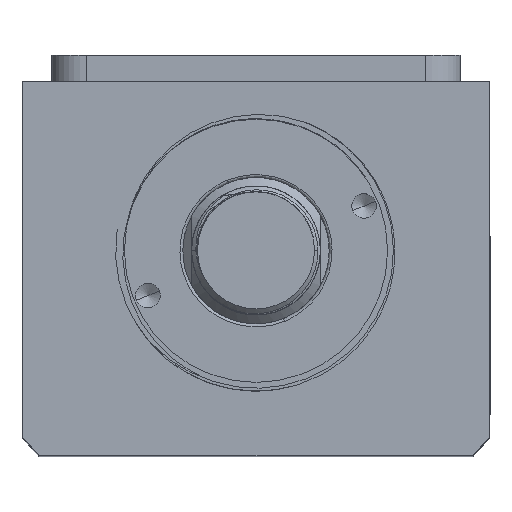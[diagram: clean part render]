
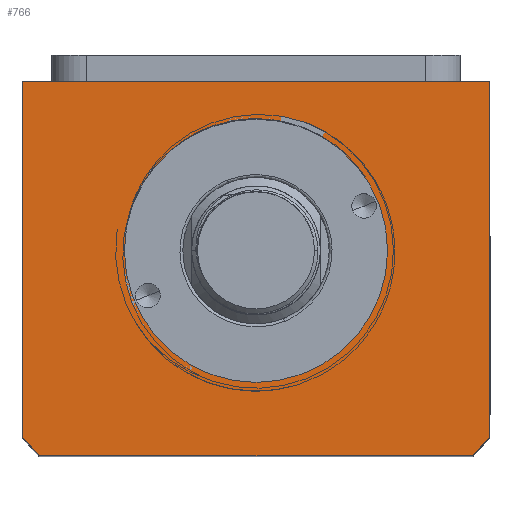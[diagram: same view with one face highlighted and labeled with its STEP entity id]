
A CAD part, top view. The second image highlights one B-rep face of the part: STEP entity #766.
In plain terms, the highlighted planar face has unit normal (0, 0, 1).
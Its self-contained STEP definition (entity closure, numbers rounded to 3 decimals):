
#208 = VERTEX_POINT ( 'NONE', #10943 ) ;
#238 = ORIENTED_EDGE ( 'NONE', *, *, #12765, .T. ) ;
#394 = DIRECTION ( 'NONE',  ( 0., 0., 1. ) ) ;
#430 = VECTOR ( 'NONE', #11075, 1000. ) ;
#510 = EDGE_LOOP ( 'NONE', ( #8586, #6769 ) ) ;
#533 = ORIENTED_EDGE ( 'NONE', *, *, #13325, .T. ) ;
#584 = CIRCLE ( 'NONE', #5054, 51. ) ;
#766 = ADVANCED_FACE ( 'NONE', ( #3916, #9636 ), #2413, .T. ) ;
#1082 = VECTOR ( 'NONE', #11795, 1000. ) ;
#1216 = VERTEX_POINT ( 'NONE', #9801 ) ;
#1258 = DIRECTION ( 'NONE',  ( 1., 0., 0. ) ) ;
#1345 = VERTEX_POINT ( 'NONE', #1435 ) ;
#1435 = CARTESIAN_POINT ( 'NONE',  ( 22.5, 3., 140. ) ) ;
#1617 = VECTOR ( 'NONE', #5643, 1000. ) ;
#1789 = VECTOR ( 'NONE', #1258, 1000. ) ;
#1910 = CIRCLE ( 'NONE', #11126, 22.5 ) ;
#2016 = CARTESIAN_POINT ( 'NONE',  ( -37.094, -32., 140. ) ) ;
#2413 = PLANE ( 'NONE',  #8900 ) ;
#2628 = CIRCLE ( 'NONE', #3686, 22.5 ) ;
#3017 = CARTESIAN_POINT ( 'NONE',  ( 40., -28.639, 140. ) ) ;
#3313 = CARTESIAN_POINT ( 'NONE',  ( 0., 0., 140. ) ) ;
#3356 = DIRECTION ( 'NONE',  ( 0., 0., 1. ) ) ;
#3434 = CARTESIAN_POINT ( 'NONE',  ( 0., 3., 140. ) ) ;
#3453 = DIRECTION ( 'NONE',  ( 1., 0., 0. ) ) ;
#3686 = AXIS2_PLACEMENT_3D ( 'NONE', #3434, #10926, #4501 ) ;
#3916 = FACE_BOUND ( 'NONE', #510, .T. ) ;
#4053 = AXIS2_PLACEMENT_3D ( 'NONE', #4512, #12018, #5614 ) ;
#4300 = LINE ( 'NONE', #8785, #1789 ) ;
#4462 = LINE ( 'NONE', #6672, #1617 ) ;
#4501 = DIRECTION ( 'NONE',  ( 1., 0., 0. ) ) ;
#4507 = EDGE_CURVE ( 'NONE', #7344, #6271, #5058, .T. ) ;
#4512 = CARTESIAN_POINT ( 'NONE',  ( 0., 3., 140. ) ) ;
#4766 = ORIENTED_EDGE ( 'NONE', *, *, #4507, .T. ) ;
#4910 = VERTEX_POINT ( 'NONE', #3017 ) ;
#5054 = AXIS2_PLACEMENT_3D ( 'NONE', #5443, #12919, #6521 ) ;
#5058 = CIRCLE ( 'NONE', #4053, 51. ) ;
#5443 = CARTESIAN_POINT ( 'NONE',  ( 0., 3., 140. ) ) ;
#5614 = DIRECTION ( 'NONE',  ( 1., 0., 0. ) ) ;
#5643 = DIRECTION ( 'NONE',  ( 0., 1., 0. ) ) ;
#6271 = VERTEX_POINT ( 'NONE', #2016 ) ;
#6417 = ORIENTED_EDGE ( 'NONE', *, *, #7874, .T. ) ;
#6467 = EDGE_CURVE ( 'NONE', #13615, #1345, #2628, .T. ) ;
#6521 = DIRECTION ( 'NONE',  ( 1., 0., 0. ) ) ;
#6672 = CARTESIAN_POINT ( 'NONE',  ( 40., 32., 140. ) ) ;
#6769 = ORIENTED_EDGE ( 'NONE', *, *, #6467, .F. ) ;
#6821 = LINE ( 'NONE', #12876, #1082 ) ;
#6857 = CARTESIAN_POINT ( 'NONE',  ( 0., 3., 140. ) ) ;
#7344 = VERTEX_POINT ( 'NONE', #9993 ) ;
#7874 = EDGE_CURVE ( 'NONE', #1216, #4910, #584, .T. ) ;
#7942 = DIRECTION ( 'NONE',  ( 1., 0., 0. ) ) ;
#8586 = ORIENTED_EDGE ( 'NONE', *, *, #11542, .F. ) ;
#8785 = CARTESIAN_POINT ( 'NONE',  ( -40., -32., 140. ) ) ;
#8900 = AXIS2_PLACEMENT_3D ( 'NONE', #3313, #3356, #3453 ) ;
#8957 = CARTESIAN_POINT ( 'NONE',  ( -22.5, 3., 140. ) ) ;
#9030 = LINE ( 'NONE', #10008, #430 ) ;
#9636 = FACE_OUTER_BOUND ( 'NONE', #11772, .T. ) ;
#9801 = CARTESIAN_POINT ( 'NONE',  ( 37.094, -32., 140. ) ) ;
#9806 = ORIENTED_EDGE ( 'NONE', *, *, #12330, .T. ) ;
#9993 = CARTESIAN_POINT ( 'NONE',  ( -40., -28.639, 140. ) ) ;
#10008 = CARTESIAN_POINT ( 'NONE',  ( -40., 32., 140. ) ) ;
#10926 = DIRECTION ( 'NONE',  ( 0., 0., 1. ) ) ;
#10943 = CARTESIAN_POINT ( 'NONE',  ( -40., 32., 140. ) ) ;
#11075 = DIRECTION ( 'NONE',  ( 0., -1., 0. ) ) ;
#11126 = AXIS2_PLACEMENT_3D ( 'NONE', #6857, #394, #7942 ) ;
#11542 = EDGE_CURVE ( 'NONE', #1345, #13615, #1910, .T. ) ;
#11772 = EDGE_LOOP ( 'NONE', ( #11783, #4766, #9806, #6417, #238, #533 ) ) ;
#11783 = ORIENTED_EDGE ( 'NONE', *, *, #12466, .T. ) ;
#11795 = DIRECTION ( 'NONE',  ( -1., 0., 0. ) ) ;
#12018 = DIRECTION ( 'NONE',  ( 0., 0., 1. ) ) ;
#12330 = EDGE_CURVE ( 'NONE', #6271, #1216, #4300, .T. ) ;
#12466 = EDGE_CURVE ( 'NONE', #208, #7344, #9030, .T. ) ;
#12765 = EDGE_CURVE ( 'NONE', #4910, #13286, #4462, .T. ) ;
#12780 = CARTESIAN_POINT ( 'NONE',  ( 40., 32., 140. ) ) ;
#12876 = CARTESIAN_POINT ( 'NONE',  ( -40., 32., 140. ) ) ;
#12919 = DIRECTION ( 'NONE',  ( 0., 0., 1. ) ) ;
#13286 = VERTEX_POINT ( 'NONE', #12780 ) ;
#13325 = EDGE_CURVE ( 'NONE', #13286, #208, #6821, .T. ) ;
#13615 = VERTEX_POINT ( 'NONE', #8957 ) ;
